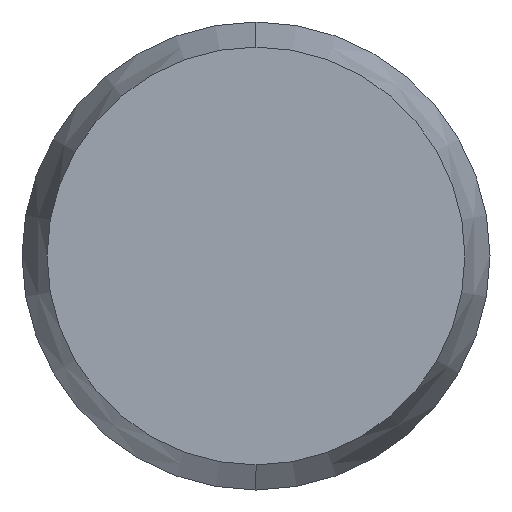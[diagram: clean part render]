
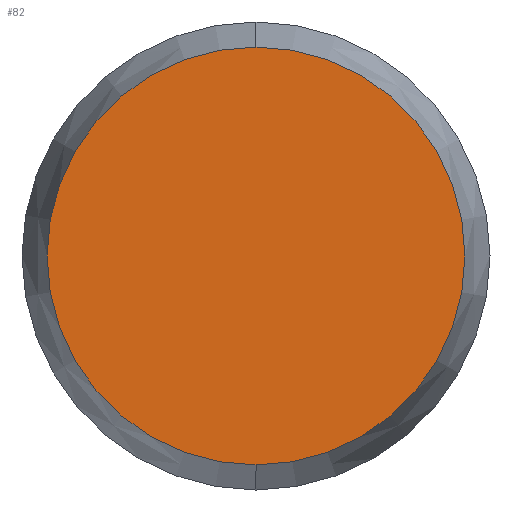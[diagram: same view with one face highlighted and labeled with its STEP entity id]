
A CAD part, left-side view. The second image highlights one B-rep face of the part: STEP entity #82.
In plain terms, the highlighted planar face has unit normal (-1, 0, 0).
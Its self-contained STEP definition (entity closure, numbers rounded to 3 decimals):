
#4 = VERTEX_POINT ( 'NONE', #76 ) ;
#6 = VERTEX_POINT ( 'NONE', #62 ) ;
#8 = EDGE_CURVE ( 'NONE', #4, #6, #68, .T. ) ;
#62 = CARTESIAN_POINT ( 'NONE',  ( -2., 0., -0.893 ) ) ;
#64 = DIRECTION ( 'NONE',  ( 0., 0., -1. ) ) ;
#65 = DIRECTION ( 'NONE',  ( 1., 0., 0. ) ) ;
#66 = CARTESIAN_POINT ( 'NONE',  ( -2., 0., 0. ) ) ;
#67 = AXIS2_PLACEMENT_3D ( 'NONE', #66, #65, #64 ) ;
#68 = CIRCLE ( 'NONE', #67, 0.893 ) ;
#75 = ORIENTED_EDGE ( 'NONE', *, *, #8, .F. ) ;
#76 = CARTESIAN_POINT ( 'NONE',  ( -2., 0., 0.893 ) ) ;
#82 = ADVANCED_FACE ( 'NONE', ( #184 ), #185, .F. ) ;
#84 = EDGE_CURVE ( 'NONE', #6, #4, #186, .T. ) ;
#86 = ORIENTED_EDGE ( 'NONE', *, *, #84, .F. ) ;
#91 = EDGE_LOOP ( 'NONE', ( #75, #86 ) ) ;
#180 = DIRECTION ( 'NONE',  ( 0., 0., -1. ) ) ;
#181 = DIRECTION ( 'NONE',  ( 1., 0., 0. ) ) ;
#182 = CARTESIAN_POINT ( 'NONE',  ( -2., 0., 0. ) ) ;
#183 = AXIS2_PLACEMENT_3D ( 'NONE', #182, #181, #180 ) ;
#184 = FACE_OUTER_BOUND ( 'NONE', #91, .T. ) ;
#185 = PLANE ( 'NONE',  #194 ) ;
#186 = CIRCLE ( 'NONE', #183, 0.893 ) ;
#187 = DIRECTION ( 'NONE',  ( 0., 0., -1. ) ) ;
#188 = DIRECTION ( 'NONE',  ( 1., 0., 0. ) ) ;
#193 = CARTESIAN_POINT ( 'NONE',  ( -2., 0., 0. ) ) ;
#194 = AXIS2_PLACEMENT_3D ( 'NONE', #193, #188, #187 ) ;
